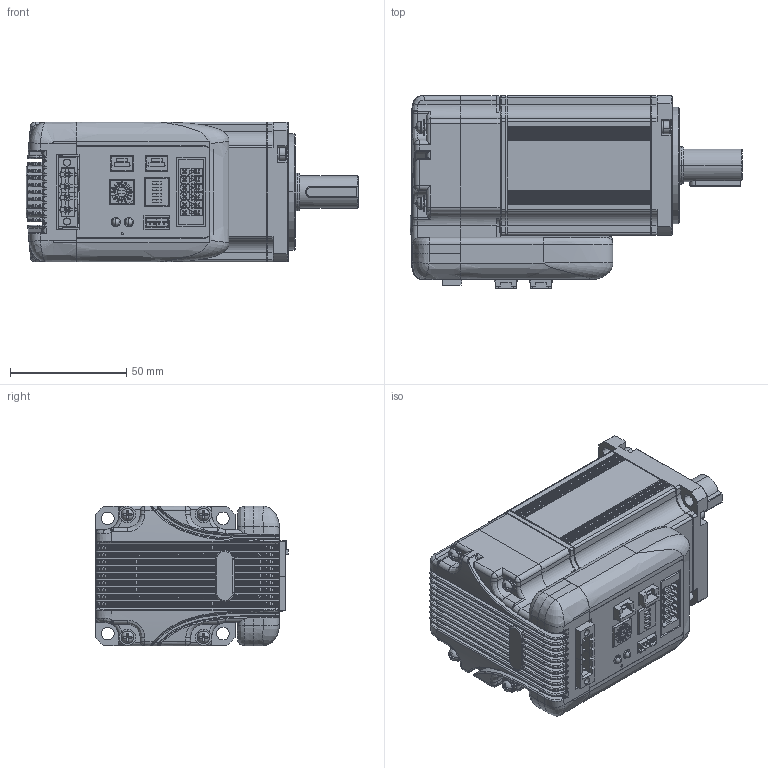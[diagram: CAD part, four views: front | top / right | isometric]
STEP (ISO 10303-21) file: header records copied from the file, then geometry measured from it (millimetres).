
FILE_DESCRIPTION((''),'2;1');
FILE_NAME('ISV2_6020V48C_B_ALL_ASM','2020-12-09T',('sunjun'),(''),'PRO/ENGINEER BY PARAMETRIC TECHNOLOGY CORPORATION, 2008090','PRO/ENGINEER BY PARAMETRIC TECHNOLOGY CORPORATION, 2008090','');
FILE_SCHEMA(('CONFIG_CONTROL_DESIGN'));
Length unit declared in the file: millimetre
Products named in the file (23): MANIFOLD_SOLID_BREP_169; 60_200W_8_ASM_ASM_ASM; PRT0004_7_40; PRT0005_3_11; PRT0004_36; HEADER_2_0_4X_3; XB_3; PB_4P_5; B04B-ZESK-1D_2; PHOENIX______2__6_5; CONNECTOR_5MMCLOSED4PIN_MALE_1; PCB_ASM_12_ASM_ASM_ASM; PRT0003_46; M3X8_GB818_9_1; D3_GB9074_26_11_1; D3_GB9074_24_14_1; M3X8_GB9074_4_ASM_1_ASM_ASM_ASM; ISV2HG_202011123_4; ASM0003_ASM_60_ASM_ASM_ASM; PRT0002; ASM0001_ASM_ASM; ISV2-6040V48C; ISV2_6020V48C_B_ALL_ASM
Assembly tree (26 placements, depth 5):
  ISV2_6020V48C_B_ALL_ASM
    ASM0001_ASM_ASM
      ASM0003_ASM_60_ASM_ASM_ASM
        60_200W_8_ASM_ASM_ASM
          MANIFOLD_SOLID_BREP_169
        PCB_ASM_12_ASM_ASM_ASM
          PRT0004_7_40
          PRT0005_3_11
          PRT0004_36
          HEADER_2_0_4X_3
          XB_3
          PB_4P_5
          B04B-ZESK-1D_2  x2
          PHOENIX______2__6_5
          CONNECTOR_5MMCLOSED4PIN_MALE_1
        PRT0003_46
        M3X8_GB9074_4_ASM_1_ASM_ASM_ASM  x4
          M3X8_GB818_9_1
          D3_GB9074_26_11_1
          D3_GB9074_24_14_1
        ISV2HG_202011123_4
      PRT0002
    ISV2-6040V48C
Bounding box: 142.7 x 82.9 x 60 mm (x, y, z)
Volume: 97591.7 mm3; surface area: 136666.8 mm2
Topology: 26 solids, 58 shells, 3992 faces, 10895 edges, 7019 vertices
Faces by surface type: plane 2245, cylinder 1016, bspline 232, cone 207, extrusion 162, torus 88, sphere 36, revolution 6
Entity records: 139665 total; most frequent: CARTESIAN_POINT 45300, ORIENTED_EDGE 20151, DIRECTION 18194, EDGE_CURVE 10319, VECTOR 6818, VERTEX_POINT 6697, LINE 6656, AXIS2_PLACEMENT_3D 5685
